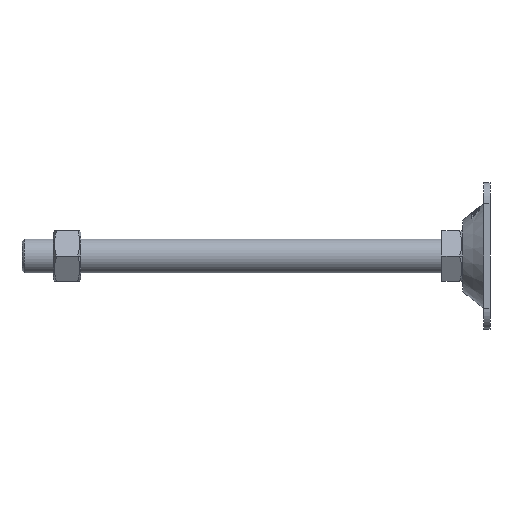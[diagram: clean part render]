
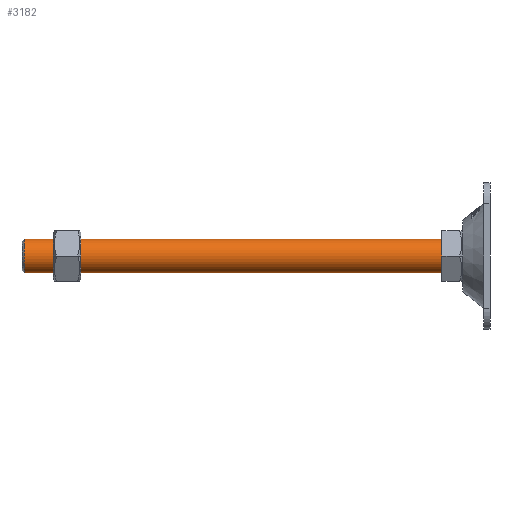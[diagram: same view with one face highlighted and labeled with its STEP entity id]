
A CAD part, left-side view. The second image highlights one B-rep face of the part: STEP entity #3182.
In plain terms, the highlighted cylindrical face has radius 8 mm (diameter 16 mm), a partial arc.
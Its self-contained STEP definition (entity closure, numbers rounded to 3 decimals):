
#322 = CIRCLE ( 'NONE', #4155, 8. ) ;
#339 = CIRCLE ( 'NONE', #631, 8. ) ;
#362 = FACE_OUTER_BOUND ( 'NONE', #4890, .T. ) ;
#387 = DIRECTION ( 'NONE',  ( 0., -1., 0. ) ) ;
#610 = VECTOR ( 'NONE', #2175, 1000. ) ;
#631 = AXIS2_PLACEMENT_3D ( 'NONE', #3776, #4722, #1435 ) ;
#693 = CARTESIAN_POINT ( 'NONE',  ( 0., 10., 8. ) ) ;
#843 = VERTEX_POINT ( 'NONE', #1610 ) ;
#986 = ORIENTED_EDGE ( 'NONE', *, *, #5140, .T. ) ;
#1250 = DIRECTION ( 'NONE',  ( 0., 0., 1. ) ) ;
#1353 = VERTEX_POINT ( 'NONE', #1837 ) ;
#1435 = DIRECTION ( 'NONE',  ( 0., 0., -1. ) ) ;
#1541 = VERTEX_POINT ( 'NONE', #693 ) ;
#1610 = CARTESIAN_POINT ( 'NONE',  ( 0., 10., -8. ) ) ;
#1774 = CARTESIAN_POINT ( 'NONE',  ( 0., 8., 8. ) ) ;
#1831 = LINE ( 'NONE', #1774, #610 ) ;
#1837 = CARTESIAN_POINT ( 'NONE',  ( 0., 209., 8. ) ) ;
#1986 = DIRECTION ( 'NONE',  ( 0., -1., 0. ) ) ;
#2175 = DIRECTION ( 'NONE',  ( 0., -1., 0. ) ) ;
#2362 = ORIENTED_EDGE ( 'NONE', *, *, #2396, .F. ) ;
#2396 = EDGE_CURVE ( 'NONE', #1353, #1541, #1831, .T. ) ;
#2725 = ORIENTED_EDGE ( 'NONE', *, *, #2732, .T. ) ;
#2732 = EDGE_CURVE ( 'NONE', #843, #1541, #322, .T. ) ;
#2756 = AXIS2_PLACEMENT_3D ( 'NONE', #3652, #387, #3242 ) ;
#3123 = DIRECTION ( 'NONE',  ( 0., 1., 0. ) ) ;
#3182 = ADVANCED_FACE ( 'NONE', ( #362 ), #5125, .T. ) ;
#3242 = DIRECTION ( 'NONE',  ( 0., 0., -1. ) ) ;
#3368 = VERTEX_POINT ( 'NONE', #3835 ) ;
#3652 = CARTESIAN_POINT ( 'NONE',  ( 0., 8., 0. ) ) ;
#3776 = CARTESIAN_POINT ( 'NONE',  ( 0., 209., 0. ) ) ;
#3835 = CARTESIAN_POINT ( 'NONE',  ( 0., 209., -8. ) ) ;
#3892 = LINE ( 'NONE', #4388, #5441 ) ;
#4063 = ORIENTED_EDGE ( 'NONE', *, *, #5637, .T. ) ;
#4155 = AXIS2_PLACEMENT_3D ( 'NONE', #5461, #3123, #1250 ) ;
#4388 = CARTESIAN_POINT ( 'NONE',  ( 0., 8., -8. ) ) ;
#4722 = DIRECTION ( 'NONE',  ( 0., -1., 0. ) ) ;
#4890 = EDGE_LOOP ( 'NONE', ( #2362, #4063, #986, #2725 ) ) ;
#5125 = CYLINDRICAL_SURFACE ( 'NONE', #2756, 8. ) ;
#5140 = EDGE_CURVE ( 'NONE', #3368, #843, #3892, .T. ) ;
#5441 = VECTOR ( 'NONE', #1986, 1000. ) ;
#5461 = CARTESIAN_POINT ( 'NONE',  ( 0., 10., 0. ) ) ;
#5637 = EDGE_CURVE ( 'NONE', #1353, #3368, #339, .T. ) ;
